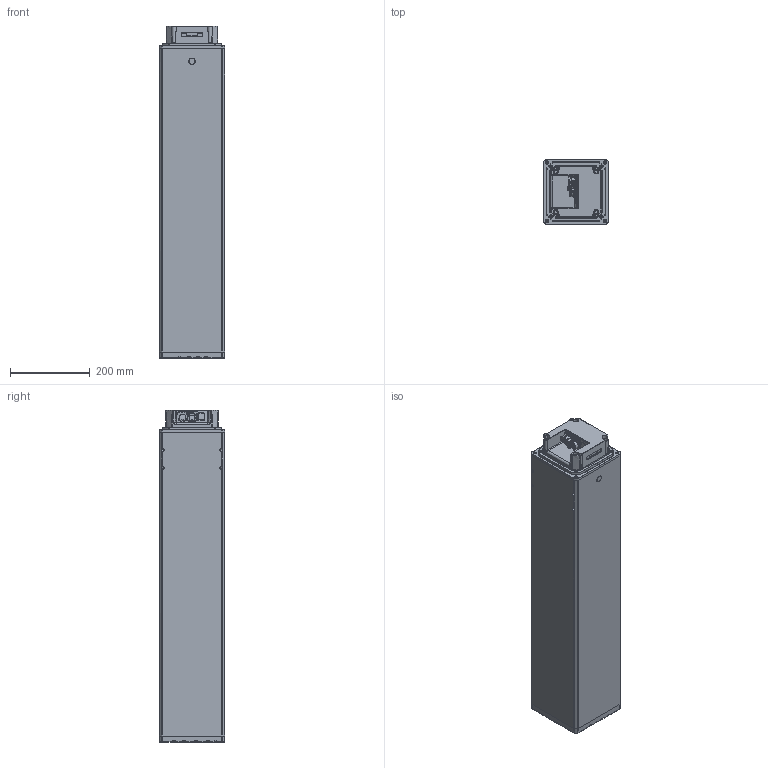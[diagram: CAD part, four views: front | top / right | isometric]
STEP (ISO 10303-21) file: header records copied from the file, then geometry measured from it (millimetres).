
FILE_DESCRIPTION((''),'2;1');
FILE_NAME('ELEVATE1100IN_ASM','2025-02-10T13:23:38',('maho'),(''),'CREO PARAMETRIC BY PTC INC, 2022024','CREO PARAMETRIC BY PTC INC, 2022024','');
FILE_SCHEMA(('AUTOMOTIVE_DESIGN { 1 0 10303 214 1 1 1 1 }'));
Products named in the file (17): 0002601_1; 1002W4025_ASM_1_ASM; 0002002_1; 1002W4019_ASM_1_ASM; 1002W4003__1; 1002W4004__1; 1002W4005__1; 1002W4006_1; 1002W4007_1; 1002W4012_1; TEC-0003335_1; TEC-0001926_1; 1002W1392_1; TEC-0001888_ASM_1_ASM; NUT_FOR_PROFILE_HOLE; 0002068; ELEVATE1100IN_ASM
Assembly tree (39 placements, depth 4):
  ELEVATE1100IN_ASM
    TEC-0001888_ASM_1_ASM
      1002W4025_ASM_1_ASM
        0002601_1  x6
      1002W4019_ASM_1_ASM
        0002002_1  x6
        0002601_1  x12
      1002W4003__1
      1002W4004__1
      1002W4005__1
      1002W4006_1
      1002W4007_1
      1002W4012_1
      TEC-0003335_1
      TEC-0001926_1
      1002W1392_1
    NUT_FOR_PROFILE_HOLE
    0002068  x2
Bounding box: 163 x 163 x 830 mm (x, y, z)
Surface area: 1920835.4 mm2
Topology: 36 solids, 37 shells, 2432 faces, 6805 edges, 4447 vertices
Faces by surface type: cylinder 1089, plane 579, cone 314, torus 217, bspline 181, sphere 46, extrusion 6
Entity records: 69810 total; most frequent: CARTESIAN_POINT 22584, DIRECTION 9426, ORIENTED_EDGE 9116, EDGE_CURVE 4558, AXIS2_PLACEMENT_3D 3827, VERTEX_POINT 2975, CIRCLE 2180, EDGE_LOOP 1805
